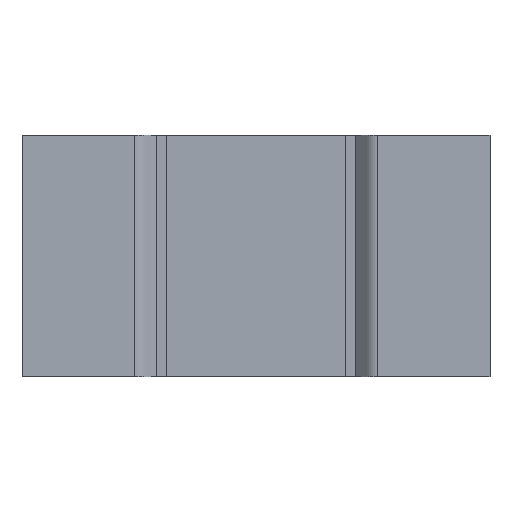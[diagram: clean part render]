
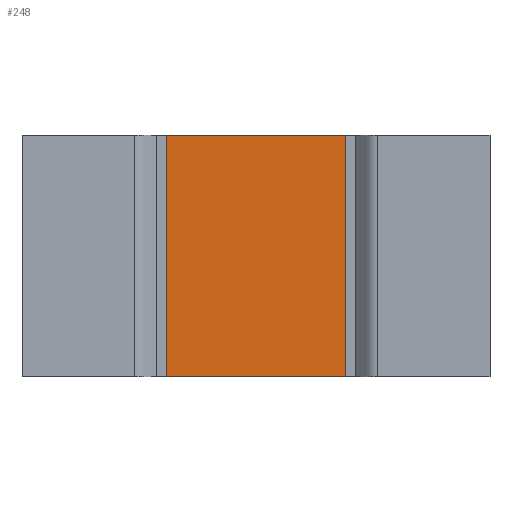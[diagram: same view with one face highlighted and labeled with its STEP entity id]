
A CAD part, front view. The second image highlights one B-rep face of the part: STEP entity #248.
In plain terms, the highlighted planar face has unit normal (0, -1, 0).
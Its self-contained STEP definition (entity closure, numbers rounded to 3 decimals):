
#43 = CARTESIAN_POINT ( 'NONE',  ( 4.625, 0.5, 0. ) ) ;
#59 = CARTESIAN_POINT ( 'NONE',  ( 4.625, 0.5, -7.75 ) ) ;
#65 = VERTEX_POINT ( 'NONE', #279 ) ;
#82 = EDGE_CURVE ( 'NONE', #816, #802, #719, .T. ) ;
#134 = DIRECTION ( 'NONE',  ( 1., 0., 0. ) ) ;
#192 = DIRECTION ( 'NONE',  ( 1., 0., 0. ) ) ;
#248 = ADVANCED_FACE ( 'NONE', ( #678 ), #312, .T. ) ;
#251 = AXIS2_PLACEMENT_3D ( 'NONE', #292, #375, #586 ) ;
#256 = VERTEX_POINT ( 'NONE', #460 ) ;
#259 = ORIENTED_EDGE ( 'NONE', *, *, #906, .F. ) ;
#268 = DIRECTION ( 'NONE',  ( 0., 0., 1. ) ) ;
#279 = CARTESIAN_POINT ( 'NONE',  ( 10.375, 0.5, -7.75 ) ) ;
#284 = LINE ( 'NONE', #795, #889 ) ;
#292 = CARTESIAN_POINT ( 'NONE',  ( 4.625, 0.5, -7.75 ) ) ;
#312 = PLANE ( 'NONE',  #251 ) ;
#343 = CARTESIAN_POINT ( 'NONE',  ( 4.625, 0.5, 0. ) ) ;
#349 = DIRECTION ( 'NONE',  ( 0., 0., 1. ) ) ;
#352 = VECTOR ( 'NONE', #134, 1000. ) ;
#360 = ORIENTED_EDGE ( 'NONE', *, *, #82, .F. ) ;
#375 = DIRECTION ( 'NONE',  ( 0., -1., 0. ) ) ;
#432 = VECTOR ( 'NONE', #349, 1000. ) ;
#460 = CARTESIAN_POINT ( 'NONE',  ( 4.625, 0.5, -7.75 ) ) ;
#558 = LINE ( 'NONE', #936, #352 ) ;
#575 = VECTOR ( 'NONE', #192, 1000. ) ;
#586 = DIRECTION ( 'NONE',  ( 0., 0., -1. ) ) ;
#633 = ORIENTED_EDGE ( 'NONE', *, *, #792, .T. ) ;
#647 = CARTESIAN_POINT ( 'NONE',  ( 10.375, 0.5, 0. ) ) ;
#678 = FACE_OUTER_BOUND ( 'NONE', #772, .T. ) ;
#694 = ORIENTED_EDGE ( 'NONE', *, *, #859, .T. ) ;
#719 = LINE ( 'NONE', #43, #575 ) ;
#772 = EDGE_LOOP ( 'NONE', ( #360, #259, #633, #694 ) ) ;
#788 = LINE ( 'NONE', #59, #432 ) ;
#792 = EDGE_CURVE ( 'NONE', #256, #65, #558, .T. ) ;
#795 = CARTESIAN_POINT ( 'NONE',  ( 10.375, 0.5, -7.75 ) ) ;
#802 = VERTEX_POINT ( 'NONE', #647 ) ;
#816 = VERTEX_POINT ( 'NONE', #343 ) ;
#859 = EDGE_CURVE ( 'NONE', #65, #802, #284, .T. ) ;
#889 = VECTOR ( 'NONE', #268, 1000. ) ;
#906 = EDGE_CURVE ( 'NONE', #256, #816, #788, .T. ) ;
#936 = CARTESIAN_POINT ( 'NONE',  ( 4.625, 0.5, -7.75 ) ) ;
